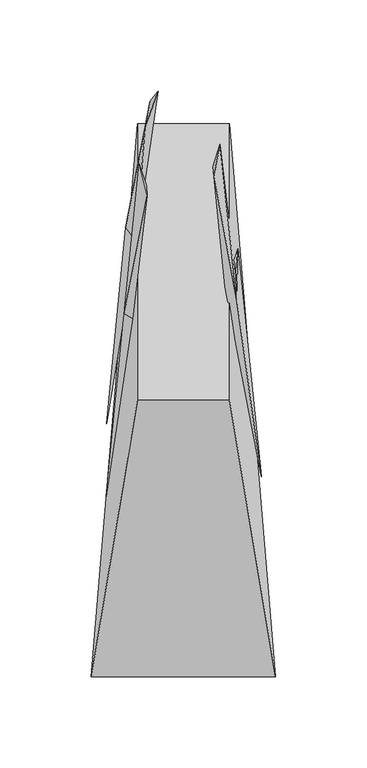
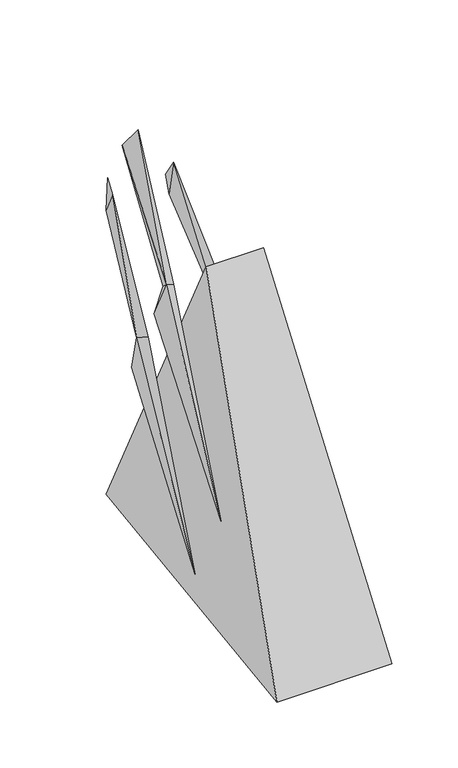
"""IFC4 building model written with IfcOpenShell, lengths in millimetres: geographic element geometry, Enscape AssetDefinition - Kitchen Tool 015 Knife Block : Enscape AssetDefinition - Kitchen Tool 015 Knife Block."""

from ifc_helpers import new_model, si_unit, origin, place, context, project, spatial, triangles, source, transform, mapped, element, save


def geographic_element_f8921ec5(model_context):
    return source(origin(), model_context, "Body", "Tessellation", [
        triangles([(-25.2669988, 0.0, 301.8949993), (-25.2669988, 151.3539973, -0.812), (-50.5350013, -151.3539973, -0.812), (25.2669988, 0.0, 301.8949993), (25.2669988, 151.3539973, -0.812), (50.5350013, -151.3539973, -0.812), (20.0530002, 140.1160023, 286.3909856), (16.8350008, 122.185002, 309.5999977), (22.6369994, 62.0730007, 206.8209878), (16.2989994, 127.7019981, 277.4510153), (28.6470001, 68.0740016, 201.8139896), (42.6799984, -42.0109986, 55.4269992), (29.8200003, 82.868997, 166.8960083), (29.1930014, 55.3320014, 210.8339878), (-27.9269995, 44.3960001, 259.6470148), (-20.0960004, 117.1910027, 326.4680088), (-32.5280018, 47.2859991, 258.9739818), (-19.9329993, 111.8379955, 358.7709789), (-24.2500005, 129.2880023, 335.3919917), (-42.4060008, -52.9640001, 104.3399975), (-28.9740014, 71.9359979, 215.7180101), (-29.5969988, 57.6840017, 250.2920081), (-18.237, 163.5559869, 252.6560171), (-13.9260009, 168.9859971, 277.974984), (-20.9800012, 148.9959927, 276.4320004), (-25.6959992, 99.7409959, 174.8840019), (-31.6610012, 94.470996, 180.7660011), (-25.9150016, 86.809, 184.3439986), (-24.9229995, 113.5089963, 139.8980015), (-42.0090001, -12.8, 30.6300004)], [[29, 26, 28], [29, 30, 27], [28, 27, 30], [29, 28, 30], [27, 28, 25], [29, 27, 26], [25, 24, 23], [27, 23, 26], [25, 28, 24], [28, 23, 24], [27, 25, 23], [23, 28, 26], [21, 22, 15], [21, 20, 17], [15, 17, 20], [21, 15, 20], [22, 19, 16], [17, 15, 18], [19, 18, 16], [21, 17, 22], [15, 16, 18], [17, 18, 19], [19, 22, 17], [16, 15, 22], [13, 11, 14], [13, 12, 9], [14, 9, 12], [13, 14, 12], [9, 14, 8], [10, 7, 11], [8, 7, 10], [13, 9, 11], [9, 10, 11], [14, 7, 8], [9, 8, 10], [7, 14, 11], [5, 6, 3], [4, 1, 3], [1, 4, 5], [5, 3, 2], [4, 3, 6], [5, 4, 6], [1, 5, 2], [3, 1, 2]]),
    ])


if __name__ == "__main__":
    model = new_model("IFC4")
    model_context = context("Model", 3, world=origin())
    ifc_project = project(units=[si_unit("LENGTHUNIT", "METRE", prefix="MILLI")], contexts=[model_context])
    site = spatial("IfcSite", under=ifc_project)
    building = spatial("IfcBuilding", under=site)
    placement = place(None, origin())
    geographic_element_shape = geographic_element_f8921ec5(model_context)
    element("IfcGeographicElement", 1, ObjectType="Enscape AssetDefinition - Kitchen Tool 015 Knife Block : Enscape AssetDefinition - Kitchen Tool 015 Knife Block", at=placement, inside=building, context=model_context, shape_type="MappedRepresentation", body=[
        mapped(geographic_element_shape, transform((0.0, 0.0, 0.0), x_axis=(1.0, 0.0, 0.0), y_axis=(0.0, 1.0, 0.0), z_axis=(0.0, 0.0, 1.0))),
    ])
    save(model, "model.ifc")
